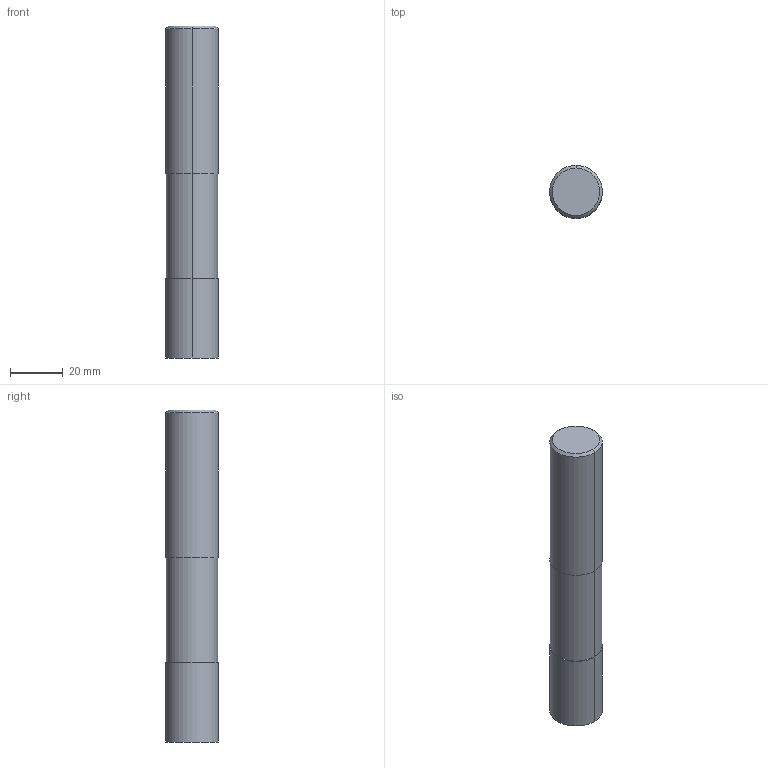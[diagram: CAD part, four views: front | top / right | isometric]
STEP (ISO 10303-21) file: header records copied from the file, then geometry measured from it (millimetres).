
FILE_DESCRIPTION((''),'2;1');
FILE_NAME('DIN4003_82_HEURO','2016-04-11T',('automc'),(''),'PRO/ENGINEER BY PARAMETRIC TECHNOLOGY CORPORATION, 2015280','PRO/ENGINEER BY PARAMETRIC TECHNOLOGY CORPORATION, 2015280','');
FILE_SCHEMA(('AUTOMOTIVE_DESIGN { 1 0 10303 214 1 1 1 1 }'));
Length unit declared in the file: millimetre
Products named in the file (1): DIN4003_82_HEURO
Bounding box: 20 x 20 x 126 mm (x, y, z)
Volume: 38933.5 mm3; surface area: 8475.2 mm2
Topology: 1 solids, 1 shells, 12 faces, 24 edges, 17 vertices
Faces by surface type: bspline 12
Entity records: 704 total; most frequent: CARTESIAN_POINT 219, DIRECTION 68, ORIENTED_EDGE 44, AXIS2_PLACEMENT_3D 26, PRESENTATION_STYLE_ASSIGNMENT 23, STYLED_ITEM 23, EDGE_CURVE 22, VECTOR 16
